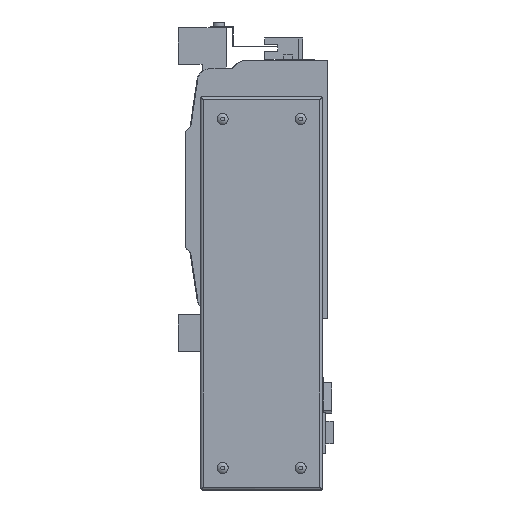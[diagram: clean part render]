
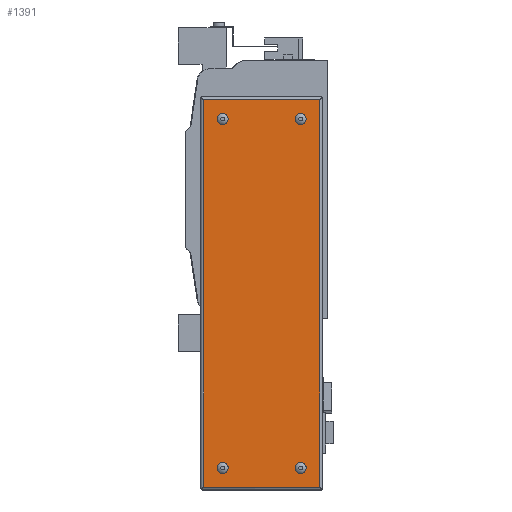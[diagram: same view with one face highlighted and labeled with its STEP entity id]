
A CAD part, left-side view. The second image highlights one B-rep face of the part: STEP entity #1391.
In plain terms, the highlighted planar face has unit normal (-1, 0, 0).
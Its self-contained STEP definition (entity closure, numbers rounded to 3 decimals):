
#1391 = ADVANCED_FACE( '', ( #2958, #2959, #2960, #2961, #2962 ), #2963, .F. );
#2958 = FACE_BOUND( '', #4741, .T. );
#2959 = FACE_BOUND( '', #4742, .T. );
#2960 = FACE_BOUND( '', #4743, .T. );
#2961 = FACE_BOUND( '', #4744, .T. );
#2962 = FACE_OUTER_BOUND( '', #4745, .T. );
#2963 = PLANE( '', #4746 );
#4741 = EDGE_LOOP( '', ( #8379 ) );
#4742 = EDGE_LOOP( '', ( #8380 ) );
#4743 = EDGE_LOOP( '', ( #8381 ) );
#4744 = EDGE_LOOP( '', ( #8382 ) );
#4745 = EDGE_LOOP( '', ( #8383, #8384, #8385, #8386 ) );
#4746 = AXIS2_PLACEMENT_3D( '', #8387, #8388, #8389 );
#8379 = ORIENTED_EDGE( '', *, *, #10499, .F. );
#8380 = ORIENTED_EDGE( '', *, *, #11706, .F. );
#8381 = ORIENTED_EDGE( '', *, *, #11548, .F. );
#8382 = ORIENTED_EDGE( '', *, *, #10905, .F. );
#8383 = ORIENTED_EDGE( '', *, *, #11794, .F. );
#8384 = ORIENTED_EDGE( '', *, *, #11795, .F. );
#8385 = ORIENTED_EDGE( '', *, *, #11217, .T. );
#8386 = ORIENTED_EDGE( '', *, *, #10909, .T. );
#8387 = CARTESIAN_POINT( '', ( -66., 0., 0. ) );
#8388 = DIRECTION( '', ( 1., 0., 0. ) );
#8389 = DIRECTION( '', ( 0., 0., -1. ) );
#10499 = EDGE_CURVE( '', #12543, #12543, #12544, .F. );
#10905 = EDGE_CURVE( '', #13235, #13235, #13236, .F. );
#10909 = EDGE_CURVE( '', #13242, #13240, #13243, .T. );
#11217 = EDGE_CURVE( '', #13714, #13242, #13715, .T. );
#11548 = EDGE_CURVE( '', #14227, #14227, #14228, .F. );
#11706 = EDGE_CURVE( '', #14445, #14445, #14446, .F. );
#11794 = EDGE_CURVE( '', #14559, #13240, #14560, .T. );
#11795 = EDGE_CURVE( '', #13714, #14559, #14561, .T. );
#12543 = VERTEX_POINT( '', #15485 );
#12544 = CIRCLE( '', #15486, 3.7 );
#13235 = VERTEX_POINT( '', #16445 );
#13236 = CIRCLE( '', #16446, 3.7 );
#13240 = VERTEX_POINT( '', #16451 );
#13242 = VERTEX_POINT( '', #16453 );
#13243 = LINE( '', #16454, #16455 );
#13714 = VERTEX_POINT( '', #17114 );
#13715 = LINE( '', #17115, #17116 );
#14227 = VERTEX_POINT( '', #17844 );
#14228 = CIRCLE( '', #17845, 3.7 );
#14445 = VERTEX_POINT( '', #18154 );
#14446 = CIRCLE( '', #18155, 3.7 );
#14559 = VERTEX_POINT( '', #18311 );
#14560 = LINE( '', #18312, #18313 );
#14561 = LINE( '', #18314, #18315 );
#15485 = CARTESIAN_POINT( '', ( -66., 71.5, -192.7 ) );
#15486 = AXIS2_PLACEMENT_3D( '', #19202, #19203, #19204 );
#16445 = CARTESIAN_POINT( '', ( -66., 71.5, 44.3 ) );
#16446 = AXIS2_PLACEMENT_3D( '', #19656, #19657, #19658 );
#16451 = CARTESIAN_POINT( '', ( -66., 5.5, -202. ) );
#16453 = CARTESIAN_POINT( '', ( -66., 84.5, -202. ) );
#16454 = CARTESIAN_POINT( '', ( -66., 267., -202. ) );
#16455 = VECTOR( '', #19663, 1000. );
#17114 = CARTESIAN_POINT( '', ( -66., 84.5, 61. ) );
#17115 = CARTESIAN_POINT( '', ( -66., 84.5, 267. ) );
#17116 = VECTOR( '', #19978, 1000. );
#17844 = CARTESIAN_POINT( '', ( -66., 18.5, -192.7 ) );
#17845 = AXIS2_PLACEMENT_3D( '', #20327, #20328, #20329 );
#18154 = CARTESIAN_POINT( '', ( -66., 18.5, 44.3 ) );
#18155 = AXIS2_PLACEMENT_3D( '', #20476, #20477, #20478 );
#18311 = CARTESIAN_POINT( '', ( -66., 5.5, 61. ) );
#18312 = CARTESIAN_POINT( '', ( -66., 5.5, 267. ) );
#18313 = VECTOR( '', #20552, 1000. );
#18314 = CARTESIAN_POINT( '', ( -66., 267., 61. ) );
#18315 = VECTOR( '', #20553, 1000. );
#19202 = CARTESIAN_POINT( '', ( -66., 71.5, -189. ) );
#19203 = DIRECTION( '', ( 1., 0., 0. ) );
#19204 = DIRECTION( '', ( 0., 0., -1. ) );
#19656 = CARTESIAN_POINT( '', ( -66., 71.5, 48. ) );
#19657 = DIRECTION( '', ( 1., 0., 0. ) );
#19658 = DIRECTION( '', ( 0., 0., -1. ) );
#19663 = DIRECTION( '', ( 0., -1., 0. ) );
#19978 = DIRECTION( '', ( 0., 0., -1. ) );
#20327 = CARTESIAN_POINT( '', ( -66., 18.5, -189. ) );
#20328 = DIRECTION( '', ( 1., 0., 0. ) );
#20329 = DIRECTION( '', ( 0., 0., -1. ) );
#20476 = CARTESIAN_POINT( '', ( -66., 18.5, 48. ) );
#20477 = DIRECTION( '', ( 1., 0., 0. ) );
#20478 = DIRECTION( '', ( 0., 0., -1. ) );
#20552 = DIRECTION( '', ( 0., 0., -1. ) );
#20553 = DIRECTION( '', ( 0., -1., 0. ) );
